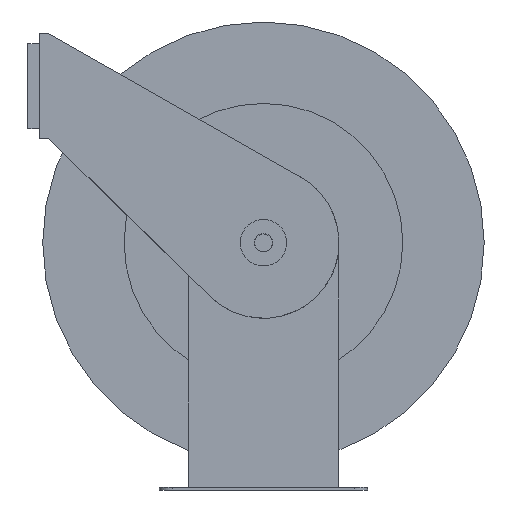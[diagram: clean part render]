
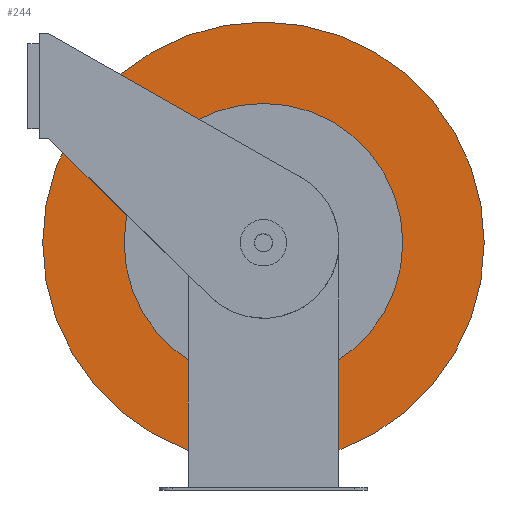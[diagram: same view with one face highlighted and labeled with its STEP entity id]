
A CAD part, front view. The second image highlights one B-rep face of the part: STEP entity #244.
In plain terms, the highlighted planar face has unit normal (0, -1, 0).
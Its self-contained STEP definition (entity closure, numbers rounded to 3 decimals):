
#244 = ADVANCED_FACE( '', ( #565, #566 ), #567, .T. );
#565 = FACE_OUTER_BOUND( '', #952, .T. );
#566 = FACE_BOUND( '', #953, .T. );
#567 = PLANE( '', #954 );
#952 = EDGE_LOOP( '', ( #1569 ) );
#953 = EDGE_LOOP( '', ( #1570 ) );
#954 = AXIS2_PLACEMENT_3D( '', #1571, #1572, #1573 );
#1569 = ORIENTED_EDGE( '', *, *, #2034, .T. );
#1570 = ORIENTED_EDGE( '', *, *, #1985, .F. );
#1571 = CARTESIAN_POINT( '', ( 0., 63.424, 419.532 ) );
#1572 = DIRECTION( '', ( 0., -1., 0. ) );
#1573 = DIRECTION( '', ( 0., 0., -1. ) );
#1985 = EDGE_CURVE( '', #2310, #2310, #2311, .T. );
#2034 = EDGE_CURVE( '', #2396, #2396, #2397, .T. );
#2310 = VERTEX_POINT( '', #2790 );
#2311 = CIRCLE( '', #2791, 152.324 );
#2396 = VERTEX_POINT( '', #2896 );
#2397 = CIRCLE( '', #2897, 241.3 );
#2790 = CARTESIAN_POINT( '', ( 0., 63.424, 114.884 ) );
#2791 = AXIS2_PLACEMENT_3D( '', #3394, #3395, #3396 );
#2896 = CARTESIAN_POINT( '', ( 0., 63.424, 25.908 ) );
#2897 = AXIS2_PLACEMENT_3D( '', #3468, #3469, #3470 );
#3394 = CARTESIAN_POINT( '', ( 0., 63.424, 267.208 ) );
#3395 = DIRECTION( '', ( 0., -1., 0. ) );
#3396 = DIRECTION( '', ( 0., 0., -1. ) );
#3468 = CARTESIAN_POINT( '', ( 0., 63.424, 267.208 ) );
#3469 = DIRECTION( '', ( 0., -1., 0. ) );
#3470 = DIRECTION( '', ( 0., 0., -1. ) );
